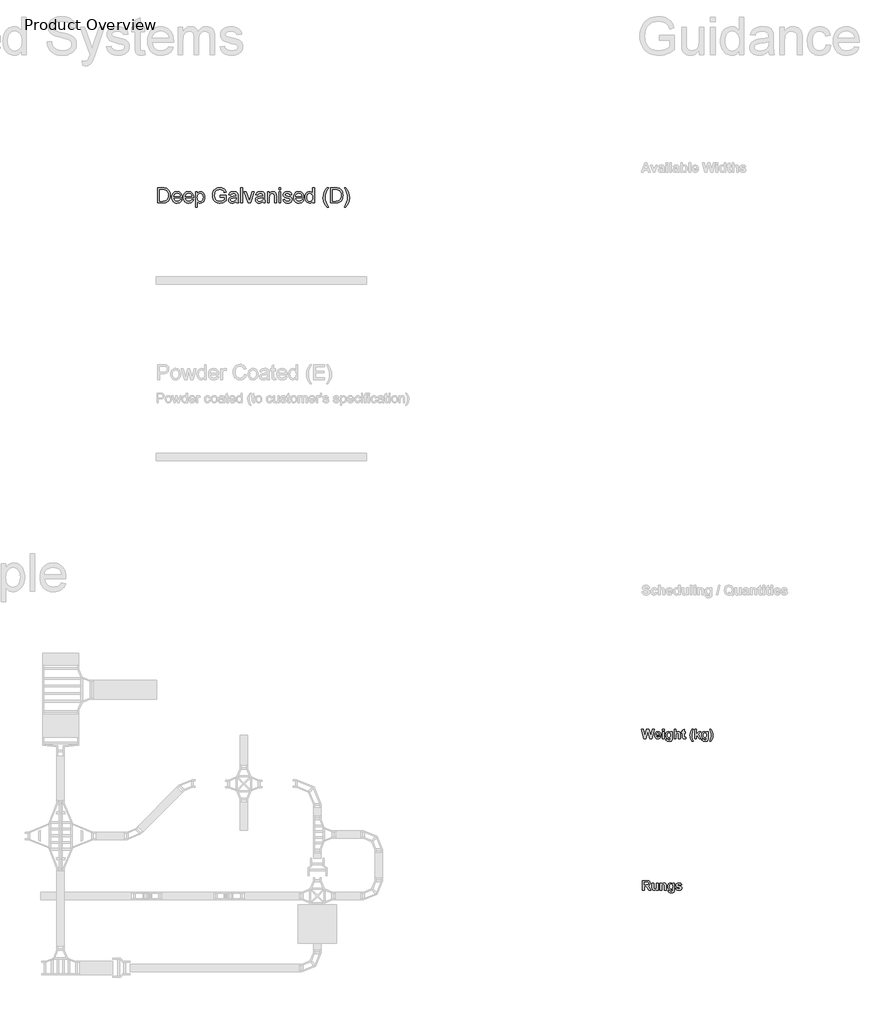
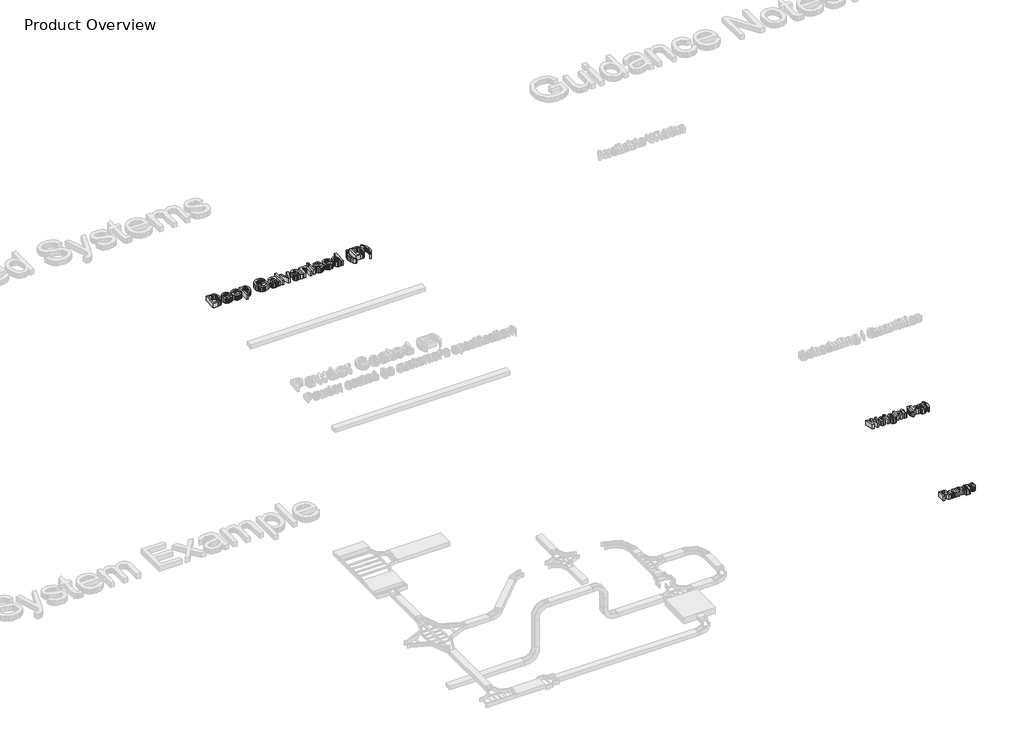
# One storey, part 7 of 11: 3 proxies.
"""IFC4 building model written with IfcOpenShell, lengths in millimetres."""

from ifc_helpers import new_model, si_unit, origin, origin_with_axes, place, context, project, spatial, polyline, outline, extrude, element, save

model = new_model("IFC4")

# Units and contexts
model_context = context("Model", 3, world=origin())
ifc_project = project(units=[si_unit("LENGTHUNIT", "METRE", prefix="MILLI")], contexts=[model_context])

# Site, building, storey
site = spatial("IfcSite", under=ifc_project)
building = spatial("IfcBuilding", under=site)
storey = spatial("IfcBuildingStorey", under=building, Name="Product Overview", Elevation=0.0)

# Proxies
placement = place(None, origin())
element("IfcBuildingElementProxy", 1, Name="250.0 BOLD", ObjectType="250.0 BOLD", at=placement, inside=storey, context=model_context, shape_type="SweptSolid", body=[
    extrude(outline(polyline([(8266.2637782, -26633.8362158), (8203.3297504, -26383.8362158), (8252.1888774, -26383.8362158), (8292.6154647, -26555.5872079), (8336.0802465, -26383.8362158), (8400.1303457, -26383.8362158), (8443.4091155, -26558.4393904), (8483.8357028, -26383.8362158), (8532.6948298, -26383.8362158), (8470.6908615, -26633.8362158), (8414.3292544, -26633.8362158), (8368.0122901, -26446.9562555), (8320.7652663, -26633.8362158), (8266.2637782, -26633.8362158)])), origin_with_axes(), (0.0, 0.0, 1.0), 150.0),
    extrude(outline(polyline([(8659.6789568, -26578.2806603), (8707.2980044, -26586.2171682), (8695.7032623, -26608.4378403), (8678.9001869, -26624.6286265), (8657.0592891, -26634.510509), (8630.3510798, -26637.8044698), (8608.7853246, -26635.8629705), (8590.2190113, -26630.0384728), (8574.6521401, -26620.3309765), (8562.0847107, -26606.7404817), (8548.9708715, -26578.6061811), (8544.5995917, -26543.9304619), (8546.0489344, -26522.5235918), (8550.3969627, -26503.5658785), (8557.6436765, -26487.057322), (8567.7890758, -26472.9979222), (8580.151117, -26461.7674534), (8594.0477564, -26453.74569), (8609.478994, -26448.932632), (8626.4448298, -26447.3282793), (8645.2979114, -26448.9752597), (8662.0506086, -26453.9162009), (8676.7029213, -26462.151103), (8689.2548496, -26473.6799658), (8699.2568648, -26488.6112964), (8706.2594379, -26507.0536017), (8710.2625691, -26529.0068817), (8711.2662584, -26554.4711365), (8592.2186393, -26554.4711365), (8595.2723347, -26574.5294202), (8603.4413576, -26589.5653825), (8615.4856284, -26598.9589837), (8630.1650679, -26602.0901841), (8640.1632078, -26600.6795938), (8648.4562385, -26596.447823), (8654.9821562, -26589.0848517), (8659.6789568, -26578.2806603)]), holes=[polyline([(8663.6472107, -26526.6933587), (8660.7485252, -26507.8674038), (8653.0445322, -26494.1722773), (8641.8528159, -26485.8249931), (8628.4909607, -26483.042565), (8614.385058, -26485.9722525), (8602.9453258, -26494.761315), (8595.4428457, -26508.6347029), (8593.0246909, -26526.6933587), (8663.6472107, -26526.6933587)])]), origin_with_axes(), (0.0, 0.0, 1.0), 150.0),
    extrude(outline(polyline([(8746.9805441, -26427.4870095), (8746.9805441, -26383.8362158), (8794.5995917, -26383.8362158), (8794.5995917, -26427.4870095), (8746.9805441, -26427.4870095)])), origin_with_axes(), (0.0, 0.0, 1.0), 150.0),
    extrude(outline(polyline([(8746.9805441, -26633.8362158), (8746.9805441, -26451.2965333), (8794.5995917, -26451.2965333), (8794.5995917, -26633.8362158), (8746.9805441, -26633.8362158)])), origin_with_axes(), (0.0, 0.0, 1.0), 150.0),
    extrude(outline(polyline([(8838.2503853, -26645.7409777), (8893.8059409, -26653.6774857), (8899.6963179, -26665.0862158), (8919.8476076, -26669.5505015), (8935.2555937, -26668.1399113), (8946.261298, -26663.9081404), (8955.1898695, -26651.6933587), (8957.2980044, -26629.495938), (8957.2980044, -26602.8962357), (8945.0173434, -26616.432477), (8931.7368685, -26626.1012208), (8917.4565795, -26631.9024671), (8902.1764766, -26633.8362158), (8885.4857834, -26631.8947166), (8870.6319578, -26626.0702188), (8857.6149997, -26616.3627225), (8846.4349092, -26602.7722277), (8834.3441353, -26575.2114638), (8830.3138774, -26541.636315), (8835.5919652, -26501.1709753), (8842.1895749, -26485.0015029), (8851.4262286, -26471.5408289), (8862.627633, -26460.9478385), (8875.119495, -26453.3814167), (8888.9018145, -26448.8415637), (8903.9745917, -26447.3282793), (8919.4445818, -26449.1225191), (8933.4884806, -26454.5052386), (8946.1062881, -26463.4764378), (8957.2980044, -26476.0361166), (8957.2980044, -26451.2965333), (9004.917052, -26451.2965333), (9004.917052, -26613.4369103), (9003.6227192, -26641.3464465), (8999.7397207, -26661.2109678), (8993.5238228, -26675.3401221), (8985.2307921, -26686.0435571), (8974.3335947, -26694.0653205), (8960.3051968, -26700.1494599), (8920.8396711, -26705.2647873), (8882.3197058, -26701.4515432), (8856.9135798, -26690.0118111), (8842.776675, -26672.7127039), (8838.0643734, -26651.3213349), (8838.2503853, -26645.7409777)]), holes=[polyline([(8877.932925, -26539.8382), (8880.6843511, -26566.0348765), (8888.9386294, -26584.1090333), (8901.2386666, -26594.6187059), (8916.1273695, -26598.1219301), (8932.0856408, -26594.5257), (8945.3622405, -26583.7370095), (8954.3140634, -26565.8953676), (8957.2980044, -26541.1402833), (8954.4380714, -26515.4318879), (8945.8582722, -26497.3344797), (8932.9071934, -26486.6155437), (8916.9334211, -26483.042565), (8901.4401795, -26486.5457892), (8888.9386294, -26497.0554619), (8880.6843511, -26514.7575948), (8877.932925, -26539.8382)])]), origin_with_axes(), (0.0, 0.0, 1.0), 150.0),
    extrude(outline(polyline([(9100.1551472, -26383.8362158), (9100.1551472, -26474.3620095), (9112.1180379, -26462.5347525), (9125.1892494, -26454.0867119), (9139.3687819, -26449.0178875), (9154.6566353, -26447.3282793), (9170.1576274, -26448.870628), (9184.0465163, -26453.4976742), (9195.5172504, -26460.5351246), (9203.7637782, -26469.3086861), (9212.8163576, -26490.6070492), (9215.2345123, -26526.8173666), (9215.2345123, -26633.8362158), (9167.6154647, -26633.8362158), (9167.6154647, -26536.7380015), (9164.9492941, -26500.0006503), (9155.5246909, -26487.6308587), (9138.6596115, -26483.042565), (9117.8262782, -26488.932942), (9109.8820198, -26496.3114142), (9104.4024191, -26506.6660769), (9100.1551472, -26541.760323), (9100.1551472, -26633.8362158), (9052.5360996, -26633.8362158), (9052.5360996, -26383.8362158), (9100.1551472, -26383.8362158)])), origin_with_axes(), (0.0, 0.0, 1.0), 150.0),
    extrude(outline(polyline([(9350.1551472, -26451.2965333), (9350.1551472, -26487.010819), (9314.4408615, -26487.010819), (9314.4408615, -26565.3218309), (9315.525931, -26593.0066027), (9320.4552465, -26599.5170194), (9329.8178457, -26602.0901841), (9352.1392742, -26597.5018904), (9354.1234012, -26631.3560571), (9335.7547256, -26636.1923666), (9315.1229052, -26637.8044698), (9291.0653655, -26633.3401841), (9275.3473595, -26621.807446), (9268.3719131, -26602.6482198), (9266.8218139, -26567.9880015), (9266.8218139, -26487.010819), (9243.0122901, -26487.010819), (9243.0122901, -26451.2965333), (9266.8218139, -26451.2965333), (9266.8218139, -26415.5822476), (9314.4408615, -26387.8044698), (9314.4408615, -26451.2965333), (9350.1551472, -26451.2965333)])), origin_with_axes(), (0.0, 0.0, 1.0), 150.0),
    extrude(outline(polyline([(9548.5678457, -26701.2965333), (9516.8218139, -26701.2965333), (9494.6011418, -26662.4122947), (9478.4103556, -26622.0244599), (9468.5284731, -26581.5436191), (9465.2345123, -26542.3803627), (9469.2647703, -26495.9238894), (9481.3555441, -26452.0405809), (9497.2285599, -26416.4813051), (9516.8218139, -26383.8362158), (9548.5678457, -26383.8362158), (9531.353994, -26430.1376791), (9520.51105, -26468.9676642), (9514.7679325, -26505.1159777), (9512.8535599, -26543.3724261), (9517.4418536, -26598.8969797), (9530.0286592, -26652.8714341), (9548.5678457, -26701.2965333)])), origin_with_axes(), (0.0, 0.0, 1.0), 150.0),
    extrude(outline(polyline([(9588.2503853, -26633.8362158), (9588.2503853, -26383.8362158), (9635.869433, -26383.8362158), (9635.869433, -26515.5946484), (9693.4091155, -26451.2965333), (9748.9646711, -26451.2965333), (9687.7667544, -26518.3848269), (9752.932925, -26633.8362158), (9705.3138774, -26633.8362158), (9657.1367941, -26552.0529817), (9635.869433, -26575.3664738), (9635.869433, -26633.8362158), (9588.2503853, -26633.8362158)])), origin_with_axes(), (0.0, 0.0, 1.0), 150.0),
    extrude(outline(polyline([(9774.7583218, -26645.7409777), (9830.3138774, -26653.6774857), (9836.2042544, -26665.0862158), (9856.3555441, -26669.5505015), (9871.7635302, -26668.1399113), (9882.7692345, -26663.9081404), (9891.697806, -26651.6933587), (9893.8059409, -26629.495938), (9893.8059409, -26602.8962357), (9881.5252799, -26616.432477), (9868.244805, -26626.1012208), (9853.964516, -26631.9024671), (9838.6844131, -26633.8362158), (9821.9937199, -26631.8947166), (9807.1398943, -26626.0702188), (9794.1229362, -26616.3627225), (9782.9428457, -26602.7722277), (9770.8520718, -26575.2114638), (9766.8218139, -26541.636315), (9772.0999017, -26501.1709753), (9778.6975115, -26485.0015029), (9787.9341651, -26471.5408289), (9799.1355695, -26460.9478385), (9811.6274315, -26453.3814167), (9825.409751, -26448.8415637), (9840.4825282, -26447.3282793), (9855.9525183, -26449.1225191), (9869.9964171, -26454.5052386), (9882.6142246, -26463.4764378), (9893.8059409, -26476.0361166), (9893.8059409, -26451.2965333), (9941.4249885, -26451.2965333), (9941.4249885, -26613.4369103), (9940.1306557, -26641.3464465), (9936.2476572, -26661.2109678), (9930.0317593, -26675.3401221), (9921.7387286, -26686.0435571), (9910.8415312, -26694.0653205), (9896.8131334, -26700.1494599), (9857.3476076, -26705.2647873), (9818.8276423, -26701.4515432), (9793.4215163, -26690.0118111), (9779.2846115, -26672.7127039), (9774.5723099, -26651.3213349), (9774.7583218, -26645.7409777)]), holes=[polyline([(9814.4408615, -26539.8382), (9817.1922876, -26566.0348765), (9825.4465659, -26584.1090333), (9837.7466031, -26594.6187059), (9852.635306, -26598.1219301), (9868.5935773, -26594.5257), (9881.870177, -26583.7370095), (9890.8219999, -26565.8953676), (9893.8059409, -26541.1402833), (9890.9460079, -26515.4318879), (9882.3662088, -26497.3344797), (9869.4151299, -26486.6155437), (9853.4413576, -26483.042565), (9837.948116, -26486.5457892), (9825.4465659, -26497.0554619), (9817.1922876, -26514.7575948), (9814.4408615, -26539.8382)])]), origin_with_axes(), (0.0, 0.0, 1.0), 150.0),
    extrude(outline(polyline([(9981.1075282, -26701.2965333), (9998.7476572, -26656.2196484), (10008.2342643, -26620.0403329), (10014.713679, -26581.1328428), (10016.8218139, -26543.3724261), (10014.9151919, -26505.1159777), (10009.1953258, -26468.9676642), (9998.3601324, -26430.1376791), (9981.1075282, -26383.8362158), (10012.8535599, -26383.8362158), (10034.6092023, -26420.4340581), (10050.8929945, -26459.1710373), (10061.0538948, -26499.2566027), (10064.4408615, -26539.9002039), (10061.7281879, -26575.6764936), (10053.5901671, -26613.932942), (10037.2056185, -26657.9092565), (10012.8535599, -26701.2965333), (9981.1075282, -26701.2965333)])), origin_with_axes(), (0.0, 0.0, 1.0), 150.0),
])
element("IfcBuildingElementProxy", 2, Name="250.0 BOLD", ObjectType="250.0 BOLD", at=placement, inside=storey, context=model_context, shape_type="SweptSolid", body=[
    extrude(outline(polyline([(8227.1392742, -30573.8362158), (8227.1392742, -30323.8362158), (8332.2980044, -30323.8362158), (8366.5551968, -30325.525824), (8389.9616949, -30330.5946484), (8406.1447306, -30339.9882496), (8418.7315361, -30354.652188), (8426.823054, -30373.2068755), (8429.5202266, -30394.2727238), (8425.6217271, -30420.0818755), (8413.9262286, -30440.9617119), (8394.4647331, -30455.9666722), (8367.2682425, -30464.151196), (8392.2558417, -30484.9845293), (8418.7935401, -30525.3491127), (8449.3614965, -30573.8362158), (8393.7439369, -30573.8362158), (8357.5336195, -30516.7305611), (8329.1048, -30482.8453924), (8312.8597603, -30473.2657793), (8285.6710203, -30470.6616127), (8274.7583218, -30470.6616127), (8274.7583218, -30573.8362158), (8227.1392742, -30573.8362158)]), holes=[polyline([(8274.7583218, -30427.010819), (8314.0068338, -30427.010819), (8361.6568834, -30424.1276345), (8376.5378357, -30414.2069996), (8381.901179, -30396.6288746), (8380.1340659, -30385.9254395), (8374.8327266, -30377.5006503), (8366.307181, -30371.5560199), (8354.8674488, -30368.2930611), (8316.1769726, -30367.4870095), (8274.7583218, -30367.4870095), (8274.7583218, -30427.010819)])]), origin_with_axes(), (0.0, 0.0, 1.0), 150.0),
    extrude(outline(polyline([(8592.2186393, -30573.8362158), (8592.2186393, -30547.0505015), (8581.2516874, -30559.8465705), (8567.3240461, -30569.588944), (8551.4742817, -30575.7505883), (8534.7409607, -30577.8044698), (8518.2014022, -30575.7893408), (8503.4289568, -30569.7439539), (8491.4621909, -30560.0480834), (8483.3396711, -30547.0815035), (8478.6893734, -30529.6816399), (8477.1392742, -30506.6859182), (8477.1392742, -30391.2965333), (8524.7583218, -30391.2965333), (8524.7583218, -30475.6839341), (8527.3314865, -30523.1479718), (8536.7560897, -30536.9748567), (8554.1482028, -30542.0901841), (8565.5491825, -30540.385075), (8575.6945818, -30535.2697476), (8583.7085947, -30527.620008), (8588.7154151, -30518.3116623), (8592.2186393, -30468.7394896), (8592.2186393, -30391.2965333), (8639.8376869, -30391.2965333), (8639.8376869, -30573.8362158), (8592.2186393, -30573.8362158)])), origin_with_axes(), (0.0, 0.0, 1.0), 150.0),
    extrude(outline(polyline([(8850.1551472, -30573.8362158), (8802.5360996, -30573.8362158), (8802.5360996, -30480.0242119), (8799.5599092, -30441.4577436), (8789.8252861, -30427.8788746), (8773.6422504, -30423.042565), (8762.1172628, -30424.7709256), (8751.8478556, -30429.9560075), (8743.7253357, -30438.0010224), (8738.6410103, -30448.3091821), (8735.0757822, -30490.5648865), (8735.0757822, -30573.8362158), (8687.4567345, -30573.8362158), (8687.4567345, -30391.2965333), (8735.0757822, -30391.2965333), (8735.0757822, -30417.5862158), (8747.1239282, -30404.3483686), (8760.6369181, -30394.8927634), (8775.6147517, -30389.2194003), (8792.057429, -30387.3282793), (8819.7111988, -30393.0946484), (8838.6844131, -30407.7895888), (8847.6439865, -30428.0338845), (8850.1551472, -30460.4929619), (8850.1551472, -30573.8362158)])), origin_with_axes(), (0.0, 0.0, 1.0), 150.0),
    extrude(outline(polyline([(8893.8059409, -30585.7409777), (8949.3614965, -30593.6774857), (8955.2518734, -30605.0862158), (8975.4031631, -30609.5505015), (8990.8111492, -30608.1399113), (9001.8168536, -30603.9081404), (9010.745425, -30591.6933587), (9012.8535599, -30569.495938), (9012.8535599, -30542.8962357), (9000.572899, -30556.432477), (8987.292424, -30566.1012208), (8973.0121351, -30571.9024671), (8957.7320322, -30573.8362158), (8941.041339, -30571.8947166), (8926.1875133, -30566.0702188), (8913.1705552, -30556.3627225), (8901.9904647, -30542.7722277), (8889.8996909, -30515.2114638), (8885.869433, -30481.636315), (8891.1475208, -30441.1709753), (8897.7451305, -30425.0015029), (8906.9817842, -30411.5408289), (8918.1831885, -30400.9478385), (8930.6750505, -30393.3814167), (8944.4573701, -30388.8415637), (8959.5301472, -30387.3282793), (8975.0001373, -30389.1225191), (8989.0440361, -30394.5052386), (9001.6618437, -30403.4764378), (9012.8535599, -30416.0361166), (9012.8535599, -30391.2965333), (9060.4726076, -30391.2965333), (9060.4726076, -30553.4369103), (9059.1782747, -30581.3464465), (9055.2952762, -30601.2109678), (9049.0793784, -30615.3401221), (9040.7863476, -30626.0435571), (9029.8891502, -30634.0653205), (9015.8607524, -30640.1494599), (8976.3952266, -30645.2647873), (8937.8752613, -30641.4515432), (8912.4691353, -30630.0118111), (8898.3322306, -30612.7127039), (8893.619929, -30591.3213349), (8893.8059409, -30585.7409777)]), holes=[polyline([(8933.4884806, -30479.8382), (8936.2399067, -30506.0348765), (8944.4941849, -30524.1090333), (8956.7942221, -30534.6187059), (8971.682925, -30538.1219301), (8987.6411964, -30534.5257), (9000.9177961, -30523.7370095), (9009.869619, -30505.8953676), (9012.8535599, -30481.1402833), (9009.9936269, -30455.4318879), (9001.4138278, -30437.3344797), (8988.4627489, -30426.6155437), (8972.4889766, -30423.042565), (8956.995735, -30426.5457892), (8944.4941849, -30437.0554619), (8936.2399067, -30454.7575948), (8933.4884806, -30479.8382)])]), origin_with_axes(), (0.0, 0.0, 1.0), 150.0),
    extrude(outline(polyline([(9088.2503853, -30522.2489142), (9135.869433, -30514.3124063), (9140.4034731, -30526.3101742), (9148.0532127, -30535.0217317), (9159.0821686, -30540.323071), (9173.7538576, -30542.0901841), (9189.6733764, -30540.4005759), (9201.0976076, -30535.3317515), (9205.7479052, -30529.8133984), (9207.2980044, -30522.682942), (9204.0117941, -30513.7543706), (9188.448798, -30507.4919698), (9142.4573546, -30495.30819), (9117.0822306, -30484.1784777), (9101.4107276, -30466.5538498), (9096.1868933, -30443.1938547), (9100.66668, -30421.4459628), (9114.1060401, -30403.4493111), (9136.9700034, -30391.3585373), (9169.7235996, -30387.3282793), (9200.9580986, -30390.5834877), (9222.9850084, -30400.3491127), (9237.6954498, -30416.5011464), (9246.9805441, -30438.9155809), (9199.3614965, -30446.8520888), (9190.1849092, -30429.1809579), (9182.0003853, -30424.5771632), (9170.963679, -30423.042565), (9157.4003109, -30424.3446484), (9148.3322306, -30428.2508984), (9143.8059409, -30437.9235174), (9148.3322306, -30446.542069), (9190.463927, -30459.8729222), (9221.0706358, -30469.4990382), (9240.7801472, -30481.1402833), (9251.3828258, -30496.5017664), (9254.917052, -30516.916573), (9249.7939741, -30540.1448096), (9234.4247405, -30559.854321), (9209.010864, -30573.3169326), (9173.7538576, -30577.8044698), (9141.1010178, -30574.0687307), (9116.0591651, -30562.8615134), (9098.4887906, -30545.2368855), (9088.2503853, -30522.2489142)])), origin_with_axes(), (0.0, 0.0, 1.0), 150.0),
])
element("IfcBuildingElementProxy", 3, Name="400.0", ObjectType="400.0", at=placement, inside=storey, context=model_context, shape_type="SweptSolid", body=[
    extrude(outline(polyline([(-4393.8217647, -12693.8362158), (-4393.8217647, -12302.0786401), (-4258.6768784, -12302.0786401), (-4218.291225, -12303.4893882), (-4188.7611587, -12307.7216325), (-4157.5334125, -12318.6011306), (-4131.1835072, -12335.7453067), (-4104.0923613, -12365.5862158), (-4084.7961965, -12402.6960643), (-4073.2471909, -12446.3575226), (-4069.3975223, -12495.8532613), (-4072.0038197, -12537.9007281), (-4079.8227117, -12574.9029772), (-4091.7303822, -12606.4056997), (-4106.6030147, -12631.954587), (-4123.7232799, -12652.1235028), (-4142.3738481, -12667.4863105), (-4163.786135, -12678.8798948), (-4189.1915564, -12687.1411401), (-4218.6379342, -12692.1624469), (-4252.1730905, -12693.8362158), (-4393.8217647, -12693.8362158)]), holes=[polyline([(-4344.8520678, -12644.8665189), (-4258.1986587, -12644.8665189), (-4222.3560924, -12643.097106), (-4195.1693026, -12637.7888673), (-4174.6536776, -12629.2526457), (-4158.8246056, -12617.799284), (-4141.8119399, -12596.6021959), (-4129.0315185, -12569.1643408), (-4121.0332941, -12535.3661637), (-4118.3672193, -12495.0881098), (-4123.5917695, -12441.7187916), (-4130.1224572, -12420.2706382), (-4139.26542, -12402.3134886), (-4162.4232089, -12375.2462537), (-4190.1001738, -12358.8911401), (-4218.267314, -12353.0090378), (-4259.5376738, -12351.048337), (-4344.8520678, -12351.048337), (-4344.8520678, -12644.8665189)])]), origin_with_axes(), (0.0, 0.0, 1.0), 150.0),
    extrude(outline(polyline([(-3806.7592647, -12608.1392461), (-3758.7460072, -12614.2604582), (-3766.1076016, -12633.4908678), (-3776.0456047, -12650.4377783), (-3788.5600164, -12665.1011898), (-3803.6508367, -12677.4811022), (-3821.1626442, -12687.3144947), (-3840.9400176, -12694.3383465), (-3887.2914617, -12699.9574279), (-3917.6763457, -12697.5334519), (-3944.7495583, -12690.2615236), (-3968.5110995, -12678.1416431), (-3988.9609693, -12661.1738105), (-4005.4057491, -12639.8302677), (-4017.1520204, -12614.5832565), (-4024.1997832, -12585.4327771), (-4026.5490375, -12552.3788295), (-4024.1758722, -12518.2040544), (-4017.0563765, -12488.0821912), (-4005.1905502, -12462.01324), (-3988.5783935, -12439.9972007), (-3968.1823234, -12422.5063153), (-3944.9647572, -12410.0128257), (-3918.9256947, -12402.5167319), (-3890.0651359, -12400.018034), (-3862.1341168, -12402.5107542), (-3836.8751501, -12409.9889147), (-3814.2882361, -12422.4525155), (-3794.3733746, -12439.9015567), (-3778.1168938, -12461.8697741), (-3766.5051217, -12487.8909033), (-3759.5380585, -12517.9649445), (-3757.2157041, -12552.0918976), (-3757.5026359, -12565.2907613), (-3977.5793405, -12565.2907613), (-3974.7428999, -12584.8320136), (-3969.1028964, -12601.9463011), (-3960.6593298, -12616.6336235), (-3949.4122003, -12628.893981), (-3920.9939948, -12645.4642935), (-3886.3350223, -12650.987731), (-3860.2720488, -12648.4292556), (-3838.3217647, -12640.7538295), (-3820.48417, -12627.4832329), (-3806.7592647, -12608.1392461)]), holes=[polyline([(-3977.5793405, -12516.3210643), (-3806.1854011, -12516.3210643), (-3812.8087439, -12490.4493787), (-3825.7924087, -12471.9422764), (-3839.1466937, -12461.8996628), (-3854.3421246, -12454.7263673), (-3890.2564238, -12448.987731), (-3923.2655384, -12453.5666846), (-3950.5599276, -12467.3035454), (-3969.5332941, -12488.7158323), (-3977.5793405, -12516.3210643)])]), origin_with_axes(), (0.0, 0.0, 1.0), 150.0),
    extrude(outline(polyline([(-3506.8198708, -12608.1392461), (-3458.8066132, -12614.2604582), (-3466.1682077, -12633.4908678), (-3476.1062108, -12650.4377783), (-3488.6206224, -12665.1011898), (-3503.7114428, -12677.4811022), (-3521.2232503, -12687.3144947), (-3541.0006236, -12694.3383465), (-3587.3520678, -12699.9574279), (-3617.7369518, -12697.5334519), (-3644.8101644, -12690.2615236), (-3668.5717055, -12678.1416431), (-3689.0215753, -12661.1738105), (-3705.4663552, -12639.8302677), (-3717.2126265, -12614.5832565), (-3724.2603893, -12585.4327771), (-3726.6096435, -12552.3788295), (-3724.2364783, -12518.2040544), (-3717.1169825, -12488.0821912), (-3705.2511563, -12462.01324), (-3688.6389996, -12439.9972007), (-3668.2429295, -12422.5063153), (-3645.0253632, -12410.0128257), (-3618.9863007, -12402.5167319), (-3590.125742, -12400.018034), (-3562.1947228, -12402.5107542), (-3536.9357562, -12409.9889147), (-3514.3488421, -12422.4525155), (-3494.4339806, -12439.9015567), (-3478.1774998, -12461.8697741), (-3466.5657278, -12487.8909033), (-3459.5986646, -12517.9649445), (-3457.2763102, -12552.0918976), (-3457.563242, -12565.2907613), (-3677.6399465, -12565.2907613), (-3674.803506, -12584.8320136), (-3669.1635024, -12601.9463011), (-3660.7199359, -12616.6336235), (-3649.4728064, -12628.893981), (-3621.0546009, -12645.4642935), (-3586.3956284, -12650.987731), (-3560.3326549, -12648.4292556), (-3538.3823708, -12640.7538295), (-3520.5447761, -12627.4832329), (-3506.8198708, -12608.1392461)]), holes=[polyline([(-3677.6399465, -12516.3210643), (-3506.2460072, -12516.3210643), (-3512.86935, -12490.4493787), (-3525.8530147, -12471.9422764), (-3539.2072998, -12461.8996628), (-3554.4027306, -12454.7263673), (-3590.3170299, -12448.987731), (-3623.3261445, -12453.5666846), (-3650.6205337, -12467.3035454), (-3669.5939001, -12488.7158323), (-3677.6399465, -12516.3210643)])]), origin_with_axes(), (0.0, 0.0, 1.0), 150.0),
    extrude(outline(polyline([(-3408.3066132, -12804.018034), (-3408.3066132, -12406.1392461), (-3359.3369162, -12406.1392461), (-3359.3369162, -12454.1525037), (-3343.3643784, -12430.4686732), (-3325.4789617, -12413.5516514), (-3304.6285829, -12403.4014384), (-3279.7611587, -12400.018034), (-3246.6444447, -12404.752409), (-3217.688242, -12418.955534), (-3194.1120109, -12441.7666136), (-3177.1352117, -12472.3248522), (-3166.8773992, -12508.4065283), (-3163.4581284, -12547.7879204), (-3167.3197524, -12589.6680103), (-3178.9046246, -12627.1245681), (-3197.8421246, -12658.2566704), (-3223.7616322, -12681.1633939), (-3253.9492505, -12695.2589194), (-3285.6910829, -12699.9574279), (-3308.2032751, -12696.8131334), (-3328.3004579, -12687.3802499), (-3345.5044115, -12673.1412584), (-3359.3369162, -12655.5786401), (-3359.3369162, -12804.018034), (-3408.3066132, -12804.018034)]), holes=[polyline([(-3359.3369162, -12552.2831855), (-3354.0406331, -12596.1837537), (-3347.4202792, -12613.1844639), (-3338.1517837, -12626.8854582), (-3314.707063, -12644.9621628), (-3301.2900117, -12649.4813389), (-3286.7431662, -12650.987731), (-3271.9870997, -12649.4275392), (-3258.3249608, -12644.7469639), (-3234.2824655, -12626.0246628), (-3224.7210604, -12611.8275155), (-3217.8914854, -12594.199142), (-3212.4278253, -12548.6487158), (-3217.759975, -12504.9872575), (-3224.425162, -12487.8550368), (-3233.7564238, -12473.8551552), (-3257.165278, -12455.204587), (-3270.4298968, -12450.541945), (-3284.7346435, -12448.987731), (-3298.9945571, -12450.6405778), (-3312.4116085, -12455.5991183), (-3336.7171246, -12475.4332802), (-3346.6132834, -12490.1534803), (-3353.6819683, -12507.8685312), (-3357.9231793, -12528.5784329), (-3359.3369162, -12552.2831855)])]), origin_with_axes(), (0.0, 0.0, 1.0), 150.0),
    extrude(outline(polyline([(-2765.5793405, -12540.8059128), (-2765.5793405, -12491.8362158), (-2606.4278253, -12491.8362158), (-2606.4278253, -12638.267087), (-2645.1038433, -12665.166945), (-2684.9993215, -12684.4631098), (-2726.0186161, -12696.0838484), (-2768.0660829, -12699.9574279), (-2796.1943677, -12698.4181583), (-2823.0015706, -12693.8003493), (-2848.4876916, -12686.1040011), (-2872.6527306, -12675.3291136), (-2894.7165919, -12661.6370859), (-2913.8991795, -12645.1893172), (-2930.2004934, -12625.9858074), (-2943.6205337, -12604.0265567), (-2954.1025117, -12580.0139502), (-2961.5896388, -12554.650373), (-2967.5793405, -12499.8703067), (-2961.6135498, -12444.6957092), (-2943.7161776, -12393.3707802), (-2930.4784586, -12370.2578245), (-2914.6284645, -12350.319052), (-2896.1661954, -12333.5544627), (-2875.0916511, -12319.9640567), (-2851.8621293, -12309.4611566), (-2826.9349276, -12301.9590851), (-2771.9874844, -12295.9574279), (-2731.649653, -12299.4364762), (-2695.376689, -12309.8736211), (-2664.8304058, -12326.5156666), (-2641.672617, -12348.6094166), (-2624.5403964, -12377.21891), (-2612.0708178, -12413.4081855), (-2657.2147572, -12426.1288295), (-2667.2932373, -12400.3169213), (-2679.547617, -12380.8414242), (-2695.7592647, -12366.1600795), (-2717.7095488, -12354.7306287), (-2743.8801217, -12347.3780009), (-2772.7526359, -12344.9271249), (-2806.550813, -12347.5692887), (-2835.4472382, -12355.4957802), (-2859.3343121, -12367.7142935), (-2878.1044352, -12383.2325226), (-2892.5108036, -12401.2494497), (-2903.3066132, -12420.9640567), (-2914.7838859, -12457.9304393), (-2918.6096435, -12497.861784), (-2914.0067789, -12544.6914478), (-2900.1981852, -12583.2239999), (-2877.6023045, -12613.1844639), (-2846.6375791, -12634.2978636), (-2810.4004816, -12646.8152641), (-2771.9874844, -12650.987731), (-2738.0697524, -12647.8434365), (-2704.9889049, -12638.4105529), (-2676.2598566, -12625.4149327), (-2655.3975223, -12611.5824279), (-2655.3975223, -12540.8059128), (-2765.5793405, -12540.8059128)])), origin_with_axes(), (0.0, 0.0, 1.0), 150.0),
    extrude(outline(polyline([(-2349.3369162, -12657.1089431), (-2372.7338149, -12677.1702594), (-2396.8241322, -12690.2973901), (-2422.1578206, -12697.5424185), (-2449.2848329, -12699.9574279), (-2471.0886622, -12698.5048356), (-2490.2084835, -12694.1470586), (-2506.6442967, -12686.884097), (-2520.3961019, -12676.7159507), (-2531.2546778, -12664.2882163), (-2539.0108036, -12650.2464904), (-2543.664479, -12634.5907731), (-2545.2157041, -12617.3210643), (-2542.8724276, -12597.0206382), (-2535.8425981, -12578.5852689), (-2524.9989664, -12562.8040189), (-2511.2142837, -12550.4659507), (-2476.9259314, -12534.3977689), (-2434.5556662, -12527.0331855), (-2384.486064, -12519.2860264), (-2349.6238481, -12510.1998522), (-2349.3369162, -12499.2964431), (-2352.7083651, -12477.4418029), (-2362.8227117, -12463.143034), (-2385.4425034, -12452.5265567), (-2416.9571814, -12448.987731), (-2446.1285829, -12451.342963), (-2466.500742, -12458.408659), (-2480.3930242, -12471.4760122), (-2490.124795, -12491.8362158), (-2539.094492, -12485.7150037), (-2530.5941369, -12458.9347007), (-2517.9093594, -12437.893034), (-2499.8565659, -12421.8009412), (-2475.2521625, -12409.8693598), (-2445.160188, -12402.4808654), (-2410.6446814, -12400.018034), (-2377.5399229, -12402.1939336), (-2351.297617, -12408.7216325), (-2331.511277, -12418.5370918), (-2317.7744162, -12430.5762726), (-2308.664331, -12445.4608607), (-2302.7583178, -12463.8125416), (-2300.3672193, -12506.6610264), (-2300.3672193, -12567.5862158), (-2297.8804769, -12652.6614999), (-2288.124795, -12693.8362158), (-2337.094492, -12693.8362158), (-2344.937295, -12676.8115946), (-2349.3369162, -12657.1089431)]), holes=[polyline([(-2349.3369162, -12559.1695492), (-2382.2384314, -12567.323195), (-2428.3388102, -12574.1856476), (-2470.4699655, -12582.1240946), (-2481.433152, -12587.5518882), (-2489.5509314, -12595.0360264), (-2494.5722382, -12604.0026457), (-2496.2460072, -12613.8778825), (-2492.599582, -12628.4396723), (-2481.6603064, -12640.3712537), (-2463.6672903, -12648.3336117), (-2438.8596435, -12650.987731), (-2412.5575602, -12648.0586353), (-2389.3160829, -12639.2713484), (-2370.4742269, -12626.3235501), (-2357.3710072, -12610.9129204), (-2351.5606378, -12595.0360264), (-2349.6238481, -12573.0379204), (-2349.3369162, -12559.1695492)])]), origin_with_axes(), (0.0, 0.0, 1.0), 150.0),
    extrude(outline(polyline([(-2233.0338859, -12693.8362158), (-2233.0338859, -12302.0786401), (-2184.064189, -12302.0786401), (-2184.064189, -12693.8362158), (-2233.0338859, -12693.8362158)])), origin_with_axes(), (0.0, 0.0, 1.0), 150.0),
    extrude(outline(polyline([(-2040.0244162, -12693.8362158), (-2141.2157041, -12406.1392461), (-2089.376689, -12406.1392461), (-2028.0689238, -12578.4896249), (-2009.6096435, -12636.4498522), (-1991.532939, -12581.7415189), (-1929.8425981, -12406.1392461), (-1878.0035829, -12406.1392461), (-1977.9514996, -12693.8362158), (-2040.0244162, -12693.8362158)])), origin_with_axes(), (0.0, 0.0, 1.0), 150.0),
    extrude(outline(polyline([(-1651.5187344, -12657.1089431), (-1674.9156331, -12677.1702594), (-1699.0059503, -12690.2973901), (-1724.3396388, -12697.5424185), (-1751.4666511, -12699.9574279), (-1773.2704804, -12698.5048356), (-1792.3903017, -12694.1470586), (-1808.8261149, -12686.884097), (-1822.57792, -12676.7159507), (-1833.436496, -12664.2882163), (-1841.1926217, -12650.2464904), (-1845.8462972, -12634.5907731), (-1847.3975223, -12617.3210643), (-1845.0542458, -12597.0206382), (-1838.0244162, -12578.5852689), (-1827.1807846, -12562.8040189), (-1813.3961019, -12550.4659507), (-1779.1077496, -12534.3977689), (-1736.7374844, -12527.0331855), (-1686.6678822, -12519.2860264), (-1651.8056662, -12510.1998522), (-1651.5187344, -12499.2964431), (-1654.8901833, -12477.4418029), (-1665.0045299, -12463.143034), (-1687.6243215, -12452.5265567), (-1719.1389996, -12448.987731), (-1748.3104011, -12451.342963), (-1768.6825602, -12458.408659), (-1782.5748424, -12471.4760122), (-1792.3066132, -12491.8362158), (-1841.2763102, -12485.7150037), (-1832.7759551, -12458.9347007), (-1820.0911776, -12437.893034), (-1802.038384, -12421.8009412), (-1777.4339806, -12409.8693598), (-1747.3420062, -12402.4808654), (-1712.8264996, -12400.018034), (-1679.7217411, -12402.1939336), (-1653.4794352, -12408.7216325), (-1633.6930952, -12418.5370918), (-1619.9562344, -12430.5762726), (-1610.8461492, -12445.4608607), (-1604.9401359, -12463.8125416), (-1602.5490375, -12506.6610264), (-1602.5490375, -12567.5862158), (-1600.062295, -12652.6614999), (-1590.3066132, -12693.8362158), (-1639.2763102, -12693.8362158), (-1647.1191132, -12676.8115946), (-1651.5187344, -12657.1089431)]), holes=[polyline([(-1651.5187344, -12559.1695492), (-1684.4202496, -12567.323195), (-1730.5206284, -12574.1856476), (-1772.6517837, -12582.1240946), (-1783.6149702, -12587.5518882), (-1791.7327496, -12595.0360264), (-1796.7540564, -12604.0026457), (-1798.4278253, -12613.8778825), (-1794.7814001, -12628.4396723), (-1783.8421246, -12640.3712537), (-1765.8491085, -12648.3336117), (-1741.0414617, -12650.987731), (-1714.7393784, -12648.0586353), (-1691.4979011, -12639.2713484), (-1672.656045, -12626.3235501), (-1659.5528253, -12610.9129204), (-1653.742456, -12595.0360264), (-1651.8056662, -12573.0379204), (-1651.5187344, -12559.1695492)])]), origin_with_axes(), (0.0, 0.0, 1.0), 150.0),
    extrude(outline(polyline([(-1535.2157041, -12693.8362158), (-1535.2157041, -12406.1392461), (-1486.2460072, -12406.1392461), (-1486.2460072, -12446.3097007), (-1469.2333414, -12426.0570965), (-1448.8014049, -12411.5909507), (-1424.9501975, -12402.9112632), (-1397.6797193, -12400.018034), (-1373.5415801, -12402.349355), (-1351.4358746, -12409.3433181), (-1333.0005053, -12420.1271723), (-1319.8733746, -12433.8281666), (-1310.9665327, -12450.4104346), (-1305.1920299, -12469.8381098), (-1302.6096435, -12517.1818598), (-1302.6096435, -12693.8362158), (-1351.5793405, -12693.8362158), (-1351.5793405, -12523.7812916), (-1352.9900886, -12498.4595586), (-1357.2223329, -12480.454587), (-1365.0292695, -12467.5546107), (-1377.1640943, -12457.5478636), (-1392.7181899, -12451.1277641), (-1410.782939, -12448.987731), (-1439.4641653, -12453.7938389), (-1463.9131473, -12468.2121628), (-1473.6837735, -12479.9823451), (-1480.6627922, -12496.0684601), (-1484.8502034, -12516.470508), (-1486.2460072, -12541.1884886), (-1486.2460072, -12693.8362158), (-1535.2157041, -12693.8362158)])), origin_with_axes(), (0.0, 0.0, 1.0), 150.0),
    extrude(outline(polyline([(-1235.2763102, -12693.8362158), (-1235.2763102, -12406.1392461), (-1186.3066132, -12406.1392461), (-1186.3066132, -12693.8362158), (-1235.2763102, -12693.8362158)])), origin_with_axes(), (0.0, 0.0, 1.0), 150.0),
    extrude(outline(polyline([(-1235.2763102, -12351.048337), (-1235.2763102, -12302.0786401), (-1186.3066132, -12302.0786401), (-1186.3066132, -12351.048337), (-1235.2763102, -12351.048337)])), origin_with_axes(), (0.0, 0.0, 1.0), 150.0),
    extrude(outline(polyline([(-1131.2157041, -12608.1392461), (-1082.2460072, -12602.018034), (-1074.522759, -12622.9640567), (-1059.5783935, -12638.362731), (-1037.3172666, -12647.831481), (-1007.6437344, -12650.987731), (-978.328867, -12648.0945018), (-957.7175981, -12639.4148143), (-945.5229958, -12626.8376363), (-941.4581284, -12612.2519355), (-945.5469068, -12599.7704014), (-957.813242, -12590.2538295), (-1008.2175981, -12576.2898143), (-1081.9590753, -12552.3310075), (-1100.621599, -12540.2918266), (-1114.1432609, -12524.3551552), (-1122.3566842, -12505.5372101), (-1125.094492, -12484.8542082), (-1122.8946814, -12465.8808418), (-1116.2952496, -12448.3660454), (-1105.8939712, -12433.0032376), (-1092.2886208, -12420.485837), (-1061.1565185, -12405.9957802), (-1019.0253632, -12400.018034), (-987.1520204, -12402.421088), (-959.439189, -12409.6302499), (-937.1541511, -12420.9401457), (-921.564189, -12435.6454014), (-911.2346435, -12454.8339668), (-904.7308556, -12479.5937916), (-953.7005526, -12485.7150037), (-959.8815422, -12470.304374), (-972.1120109, -12458.6955908), (-990.5115138, -12451.4146959), (-1015.1996056, -12448.987731), (-1043.3189238, -12451.3070965), (-1062.0651359, -12458.2651931), (-1072.6098803, -12468.3078067), (-1076.124795, -12479.8807234), (-1070.2905147, -12494.1316704), (-1052.0225223, -12504.9394355), (-1009.843545, -12515.3646249), (-937.9671246, -12538.4148143), (-918.9818026, -12549.4377783), (-904.5873897, -12564.5256098), (-895.513171, -12583.7261306), (-892.4884314, -12607.0871628), (-896.0392126, -12631.2372575), (-906.6915564, -12653.9526931), (-924.0389759, -12673.4521012), (-947.6749844, -12687.9541136), (-976.2247003, -12696.9565993), (-1008.313242, -12699.9574279), (-1034.6691251, -12698.5108134), (-1057.6894257, -12694.1709696), (-1077.374144, -12686.9378967), (-1093.7232799, -12676.8115946), (-1107.0775649, -12663.8398853), (-1117.7777306, -12648.0705908), (-1125.823777, -12629.5037111), (-1131.2157041, -12608.1392461)])), origin_with_axes(), (0.0, 0.0, 1.0), 150.0),
    extrude(outline(polyline([(-635.9713859, -12608.1392461), (-587.9581284, -12614.2604582), (-595.3197228, -12633.4908678), (-605.2577259, -12650.4377783), (-617.7721376, -12665.1011898), (-632.8629579, -12677.4811022), (-650.3747654, -12687.3144947), (-670.1521388, -12694.3383465), (-716.5035829, -12699.9574279), (-746.8884669, -12697.5334519), (-773.9616795, -12690.2615236), (-797.7232207, -12678.1416431), (-818.1730905, -12661.1738105), (-834.6178703, -12639.8302677), (-846.3641416, -12614.5832565), (-853.4119044, -12585.4327771), (-855.7611587, -12552.3788295), (-853.3879934, -12518.2040544), (-846.2684977, -12488.0821912), (-834.4026715, -12462.01324), (-817.7905147, -12439.9972007), (-797.3944447, -12422.5063153), (-774.1768784, -12410.0128257), (-748.1378159, -12402.5167319), (-719.2772572, -12400.018034), (-691.346238, -12402.5107542), (-666.0872714, -12409.9889147), (-643.5003573, -12422.4525155), (-623.5854958, -12439.9015567), (-607.329015, -12461.8697741), (-595.717243, -12487.8909033), (-588.7501797, -12517.9649445), (-586.4278253, -12552.0918976), (-586.7147572, -12565.2907613), (-806.7914617, -12565.2907613), (-803.9550211, -12584.8320136), (-798.3150176, -12601.9463011), (-789.871451, -12616.6336235), (-778.6243215, -12628.893981), (-750.2061161, -12645.4642935), (-715.5471435, -12650.987731), (-689.48417, -12648.4292556), (-667.5338859, -12640.7538295), (-649.6962912, -12627.4832329), (-635.9713859, -12608.1392461)]), holes=[polyline([(-806.7914617, -12516.3210643), (-635.3975223, -12516.3210643), (-642.0208651, -12490.4493787), (-655.0045299, -12471.9422764), (-668.3588149, -12461.8996628), (-683.5542458, -12454.7263673), (-719.468545, -12448.987731), (-752.4776596, -12453.5666846), (-779.7720488, -12467.3035454), (-798.7454153, -12488.7158323), (-806.7914617, -12516.3210643)])]), origin_with_axes(), (0.0, 0.0, 1.0), 150.0),
    extrude(outline(polyline([(-359.9429769, -12693.8362158), (-359.9429769, -12647.6401931), (-374.5944328, -12670.5289833), (-392.3423613, -12686.8781192), (-413.1867624, -12696.6876008), (-437.1276359, -12699.9574279), (-468.7857799, -12695.2230529), (-497.7658935, -12681.0199279), (-522.298564, -12658.3403588), (-540.6143784, -12628.1766514), (-552.0199181, -12591.748266), (-555.8217647, -12550.2746628), (-552.3188055, -12509.3151457), (-541.8099276, -12472.3248522), (-524.3070867, -12441.4079488), (-499.8222382, -12418.6686022), (-470.2084835, -12404.6806761), (-437.3189238, -12400.018034), (-413.360117, -12403.3536164), (-392.1749844, -12413.3603636), (-374.2178348, -12428.6992603), (-359.9429769, -12448.0312916), (-359.9429769, -12302.0786401), (-310.9732799, -12302.0786401), (-310.9732799, -12693.8362158), (-359.9429769, -12693.8362158)]), holes=[polyline([(-506.8520678, -12550.0833749), (-501.3286303, -12594.3784743), (-494.4243334, -12611.7288827), (-484.7583178, -12625.8811969), (-460.679956, -12644.7110975), (-447.1523163, -12649.4185726), (-432.6323708, -12650.987731), (-404.5967411, -12644.9980293), (-381.1281094, -12627.0289242), (-371.8596139, -12613.4684069), (-365.23926, -12596.7456618), (-359.9429769, -12553.8134886), (-365.3349039, -12506.8762253), (-372.0748128, -12488.8054985), (-381.5106852, -12474.3333749), (-392.9192138, -12463.2446557), (-405.5770914, -12455.324142), (-419.484318, -12450.5718337), (-434.6408935, -12448.987731), (-449.4477709, -12450.5090674), (-462.9754106, -12455.0730766), (-475.2238126, -12462.6797587), (-486.1929769, -12473.3291136), (-495.2313291, -12487.2542734), (-501.687295, -12504.6883702), (-506.8520678, -12550.0833749)])]), origin_with_axes(), (0.0, 0.0, 1.0), 150.0),
    extrude(outline(polyline([(13.4509625, -12804.018034), (-24.4957704, -12750.7682707), (-56.0821814, -12689.1496628), (-68.5099158, -12655.9492603), (-77.3868689, -12622.1510832), (-82.7130408, -12587.7551315), (-84.4884314, -12552.7614052), (-79.1801928, -12491.9079488), (-63.2554769, -12433.6847007), (-31.6451549, -12367.7382045), (13.4509625, -12302.0786401), (50.1782353, -12302.0786401), (4.3647883, -12379.6458749), (-11.2729958, -12416.4687916), (-23.1806662, -12454.8220113), (-32.4342174, -12503.8156192), (-35.5187344, -12553.048337), (-30.1626738, -12615.8266278), (-14.094492, -12678.5810075), (12.685811, -12741.3114762), (50.1782353, -12804.018034), (13.4509625, -12804.018034)])), origin_with_axes(), (0.0, 0.0, 1.0), 150.0),
    extrude(outline(polyline([(105.2691444, -12693.8362158), (105.2691444, -12302.0786401), (240.4140307, -12302.0786401), (280.7996841, -12303.4893882), (310.3297504, -12307.7216325), (341.5574966, -12318.6011306), (367.9074019, -12335.7453067), (394.9985478, -12365.5862158), (414.2947125, -12402.6960643), (425.8437182, -12446.3575226), (429.6933868, -12495.8532613), (427.0870894, -12537.9007281), (419.2681974, -12574.9029772), (407.3605269, -12606.4056997), (392.4878944, -12631.954587), (375.3676292, -12652.1235028), (356.717061, -12667.4863105), (335.3047741, -12678.8798948), (309.8993527, -12687.1411401), (280.4529749, -12692.1624469), (246.9178186, -12693.8362158), (105.2691444, -12693.8362158)]), holes=[polyline([(154.2388413, -12644.8665189), (240.8922504, -12644.8665189), (276.7348167, -12643.097106), (303.9216065, -12637.7888673), (324.4372315, -12629.2526457), (340.2663035, -12617.799284), (357.2789692, -12596.6021959), (370.0593906, -12569.1643408), (378.057615, -12535.3661637), (380.7236898, -12495.0881098), (375.4991396, -12441.7187916), (368.9684519, -12420.2706382), (359.8254891, -12402.3134886), (336.6677002, -12375.2462537), (308.9907353, -12358.8911401), (280.8235951, -12353.0090378), (239.5532353, -12351.048337), (154.2388413, -12351.048337), (154.2388413, -12644.8665189)])]), origin_with_axes(), (0.0, 0.0, 1.0), 150.0),
    extrude(outline(polyline([(503.1479322, -12804.018034), (466.4206595, -12804.018034), (503.9130838, -12741.3114762), (530.6933868, -12678.5810075), (546.7615686, -12615.8266278), (552.1176292, -12553.048337), (549.0331122, -12504.174284), (539.779561, -12455.6828067), (528.0870894, -12417.2578541), (512.5210383, -12380.4110264), (466.4206595, -12302.0786401), (503.1479322, -12302.0786401), (548.2440497, -12367.7382045), (579.8543716, -12433.6847007), (595.7790875, -12491.9079488), (601.0873262, -12552.7614052), (599.3029689, -12587.7551315), (593.9498972, -12622.1510832), (585.028111, -12655.9492603), (572.5376103, -12689.1496628), (540.9153328, -12750.7682707), (503.1479322, -12804.018034)])), origin_with_axes(), (0.0, 0.0, 1.0), 150.0),
])

save(model, "model.ifc")
